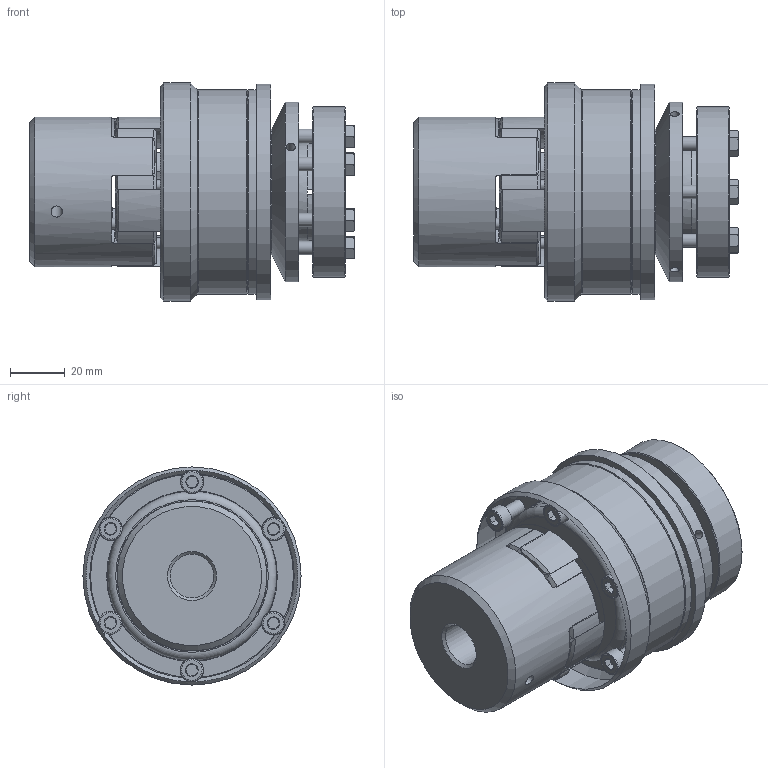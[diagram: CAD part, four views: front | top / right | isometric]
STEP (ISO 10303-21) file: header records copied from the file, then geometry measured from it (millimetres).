
FILE_DESCRIPTION( ( 'Unknown' ), '1' );
FILE_NAME( 'C:/Users/skarpstein/Desktop/Korrigierte 3D Modelle/KBK-E-PA/KBK EPA-24.stp', 'Unknown', ( 'Unknown' ), ( 'Unknown' ), 'PSStep 16.0.42', 'Unknown', ' ' );
FILE_SCHEMA( ( 'AUTOMOTIVE_DESIGN { 1 0 10303 214 1 1 1 1 }' ) );
Length unit declared in the file: millimetre
Products named in the file (29): ball_bearing_-_6007_0_03_0; ball_bearing_-_6007_0_01_0; ball_bearing_-_6007_0_02_0; Elastomerflansch 24_0; Assem1; Flansch 60_0; Stellring 60_0; ISO EN DIN 4762_M5x20_0; a_35_0; Zahnkranz_24_Standard_0; Druckring 60_0; KBK L-A-60 Grundkörper_0; Druckring L-A-60_0; din_en_24017_m5x20_0; KBE 1 - 24_Nabe
Assembly tree (38 placements, depth 4):
  Assem1
    KBE 1 - 24_Nabe
    Stellring 60_0
      Stellring 60_0
    Druckring 60_0
      Druckring 60_0
    Flansch 60_0
      Flansch 60_0
    a_35_0
      a_35_0
    Elastomerflansch 24_0
      Elastomerflansch 24_0
    Zahnkranz_24_Standard_0
      Zahnkranz_24_Standard_0
    ISO EN DIN 4762_M5x20_0  x6
      ISO EN DIN 4762_M5x20_0
    KBK L-A-60 Grundkörper_0
      KBK L-A-60 Grundkörper_0
    Druckring L-A-60_0
      Druckring L-A-60_0
    din_en_24017_m5x20_0  x6
      din_en_24017_m5x20_0
    Assem1
      ball_bearing_-_6007_0_01_0
        ball_bearing_-_6007_0_01_0
      ball_bearing_-_6007_0_02_0
        ball_bearing_-_6007_0_02_0
      ball_bearing_-_6007_0_03_0
        ball_bearing_-_6007_0_03_0
Bounding box: 119.15 x 80 x 80 mm (x, y, z)
Volume: 319117.1 mm3; surface area: 120015.3 mm2
Topology: 24 solids, 24 shells, 645 faces, 1377 edges, 838 vertices
Faces by surface type: plane 224, cone 219, cylinder 165, torus 37
Full cylindrical faces by diameter (mm): 2.5 x2, 3.242 x3, 4 x11, 4.134 x12, 4.2 x1, 5 x12, 5.2 x6, 5.5 x6, 6.88 x6, 8.5 x12, 15 x1, 16 x1, 27 x2, 30 x1, 33 x1, 35 x3, 35.937 x1, 43.7 x2, 44 x1, 46 x2, 46.5 x1, 53.6 x2, 55 x2, 61.3 x1, 62 x3, 62.5 x1, 66 x1, 75 x2, 79 x1, 80 x1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
Entity records: 15954 total; most frequent: CARTESIAN_POINT 2905, DIRECTION 2092, ORIENTED_EDGE 1598, AXIS2_PLACEMENT_3D 980, EDGE_CURVE 799, EDGE_LOOP 640, VERTEX_POINT 555, FACE_OUTER_BOUND 523
